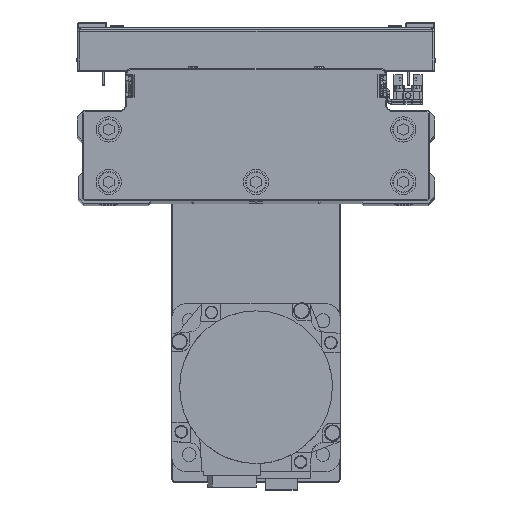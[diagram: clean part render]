
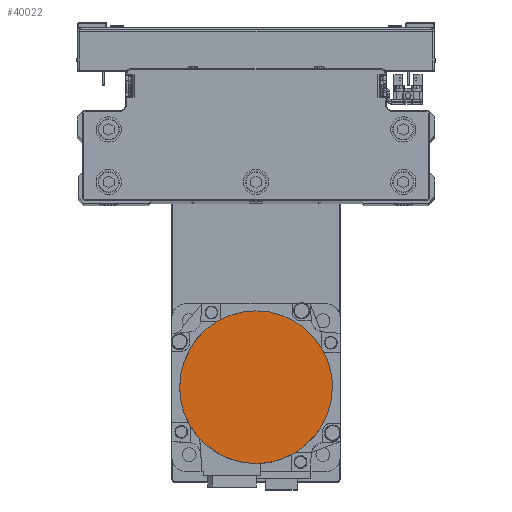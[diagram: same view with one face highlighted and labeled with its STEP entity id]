
A CAD part, top view. The second image highlights one B-rep face of the part: STEP entity #40022.
In plain terms, the highlighted planar face has unit normal (0, 0, 1) as drawn and (0, 0, -1) by its records, which use the part's own axes.
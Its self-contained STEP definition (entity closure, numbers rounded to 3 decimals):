
#258 = CARTESIAN_POINT ( 'NONE',  ( -36.3, 0., -122.2 ) ) ;
#410 = CARTESIAN_POINT ( 'NONE',  ( -18.192, 31.502, -122.2 ) ) ;
#448 = VERTEX_POINT ( 'NONE', #27372 ) ;
#518 = ORIENTED_EDGE ( 'NONE', *, *, #4486, .F. ) ;
#616 = AXIS2_PLACEMENT_3D ( 'NONE', #10681, #24418, #38156 ) ;
#1105 = DIRECTION ( 'NONE',  ( 0., 0., 1. ) ) ;
#1292 = CARTESIAN_POINT ( 'NONE',  ( -36.066, -4.752, -122.2 ) ) ;
#1511 = CARTESIAN_POINT ( 'NONE',  ( -4.752, -36.066, -122.2 ) ) ;
#3251 = ORIENTED_EDGE ( 'NONE', *, *, #34865, .F. ) ;
#3782 = CARTESIAN_POINT ( 'NONE',  ( -9.412, 35.139, -122.2 ) ) ;
#4005 = CARTESIAN_POINT ( 'NONE',  ( -36.3, 2.376, -122.2 ) ) ;
#4486 = EDGE_CURVE ( 'NONE', #448, #23498, #4887, .T. ) ;
#4689 = EDGE_CURVE ( 'NONE', #6391, #448, #8921, .T. ) ;
#4887 = B_SPLINE_CURVE_WITH_KNOTS ( 'NONE', 3,
 ( #7157, #20895, #34654, #3782, #17527, #31276, #410, #14146, #27889, #41592, #10755, #24495, #38235, #7386, #21123, #34879, #4005, #17743 ),
 .UNSPECIFIED., .F., .F.,
 ( 4, 2, 2, 2, 2, 2, 2, 2, 4 ),
 ( 0., 0.125, 0.25, 0.375, 0.5, 0.625, 0.75, 0.875, 1. ),
 .UNSPECIFIED. ) ;
#4893 = CARTESIAN_POINT ( 'NONE',  ( -16.086, -32.628, -122.2 ) ) ;
#5333 = CARTESIAN_POINT ( 'NONE',  ( 0., 0., -122.2 ) ) ;
#6391 = VERTEX_POINT ( 'NONE', #37451 ) ;
#6419 = CIRCLE ( 'NONE', #31623, 36.3 ) ;
#6878 = VERTEX_POINT ( 'NONE', #8796 ) ;
#7157 = CARTESIAN_POINT ( 'NONE',  ( 0., 36.3, -122.2 ) ) ;
#7386 = CARTESIAN_POINT ( 'NONE',  ( -34.446, 11.696, -122.2 ) ) ;
#8284 = CARTESIAN_POINT ( 'NONE',  ( -23.988, -27.348, -122.2 ) ) ;
#8796 = CARTESIAN_POINT ( 'NONE',  ( 0., -36.3, -122.2 ) ) ;
#8921 = CIRCLE ( 'NONE', #34120, 36.3 ) ;
#10681 = CARTESIAN_POINT ( 'NONE',  ( 0., 0., -122.2 ) ) ;
#10755 = CARTESIAN_POINT ( 'NONE',  ( -28.862, 22.143, -122.2 ) ) ;
#11646 = CARTESIAN_POINT ( 'NONE',  ( -31.502, -18.192, -122.2 ) ) ;
#14146 = CARTESIAN_POINT ( 'NONE',  ( -22.143, 28.862, -122.2 ) ) ;
#14830 = DIRECTION ( 'NONE',  ( -1., 0., 0. ) ) ;
#15016 = CARTESIAN_POINT ( 'NONE',  ( -35.139, -9.412, -122.2 ) ) ;
#15244 = CARTESIAN_POINT ( 'NONE',  ( -2.376, -36.3, -122.2 ) ) ;
#17527 = CARTESIAN_POINT ( 'NONE',  ( -11.696, 34.446, -122.2 ) ) ;
#17743 = CARTESIAN_POINT ( 'NONE',  ( -36.3, 0., -122.2 ) ) ;
#18408 = CARTESIAN_POINT ( 'NONE',  ( -36.3, 0., -122.2 ) ) ;
#18624 = CARTESIAN_POINT ( 'NONE',  ( -11.696, -34.446, -122.2 ) ) ;
#18668 = EDGE_CURVE ( 'NONE', #6878, #6391, #6419, .T. ) ;
#19068 = DIRECTION ( 'NONE',  ( 0., 0., 1. ) ) ;
#20768 = ORIENTED_EDGE ( 'NONE', *, *, #4689, .F. ) ;
#20895 = CARTESIAN_POINT ( 'NONE',  ( -2.376, 36.3, -122.2 ) ) ;
#21123 = CARTESIAN_POINT ( 'NONE',  ( -35.139, 9.412, -122.2 ) ) ;
#22001 = CARTESIAN_POINT ( 'NONE',  ( -22.143, -28.862, -122.2 ) ) ;
#22170 = B_SPLINE_CURVE_WITH_KNOTS ( 'NONE', 3,
 ( #18408, #32156, #1292, #15016, #28775, #42479, #11646, #25389, #39124, #8284, #22001, #35755, #4893, #18624, #32374, #1511, #15244, #29000 ),
 .UNSPECIFIED., .F., .F.,
 ( 4, 2, 2, 2, 2, 2, 2, 2, 4 ),
 ( 0., 0.125, 0.25, 0.375, 0.5, 0.625, 0.75, 0.875, 1. ),
 .UNSPECIFIED. ) ;
#23498 = VERTEX_POINT ( 'NONE', #258 ) ;
#23752 = EDGE_LOOP ( 'NONE', ( #33619, #3251, #518, #20768 ) ) ;
#24418 = DIRECTION ( 'NONE',  ( 0., 0., 1. ) ) ;
#24495 = CARTESIAN_POINT ( 'NONE',  ( -31.502, 18.192, -122.2 ) ) ;
#25389 = CARTESIAN_POINT ( 'NONE',  ( -28.862, -22.143, -122.2 ) ) ;
#27372 = CARTESIAN_POINT ( 'NONE',  ( 0., 36.3, -122.2 ) ) ;
#27815 = FACE_OUTER_BOUND ( 'NONE', #23752, .T. ) ;
#27889 = CARTESIAN_POINT ( 'NONE',  ( -23.988, 27.348, -122.2 ) ) ;
#28775 = CARTESIAN_POINT ( 'NONE',  ( -34.446, -11.696, -122.2 ) ) ;
#29000 = CARTESIAN_POINT ( 'NONE',  ( 0., -36.3, -122.2 ) ) ;
#31276 = CARTESIAN_POINT ( 'NONE',  ( -16.086, 32.628, -122.2 ) ) ;
#31623 = AXIS2_PLACEMENT_3D ( 'NONE', #31973, #1105, #14830 ) ;
#31973 = CARTESIAN_POINT ( 'NONE',  ( 0., 0., -122.2 ) ) ;
#32156 = CARTESIAN_POINT ( 'NONE',  ( -36.3, -2.376, -122.2 ) ) ;
#32374 = CARTESIAN_POINT ( 'NONE',  ( -9.412, -35.139, -122.2 ) ) ;
#32813 = DIRECTION ( 'NONE',  ( -1., 0., 0. ) ) ;
#33619 = ORIENTED_EDGE ( 'NONE', *, *, #18668, .F. ) ;
#34120 = AXIS2_PLACEMENT_3D ( 'NONE', #5333, #19068, #32813 ) ;
#34654 = CARTESIAN_POINT ( 'NONE',  ( -4.752, 36.066, -122.2 ) ) ;
#34865 = EDGE_CURVE ( 'NONE', #23498, #6878, #22170, .T. ) ;
#34879 = CARTESIAN_POINT ( 'NONE',  ( -36.066, 4.752, -122.2 ) ) ;
#35755 = CARTESIAN_POINT ( 'NONE',  ( -18.192, -31.502, -122.2 ) ) ;
#37451 = CARTESIAN_POINT ( 'NONE',  ( 36.3, 0., -122.2 ) ) ;
#38156 = DIRECTION ( 'NONE',  ( 1., 0., 0. ) ) ;
#38235 = CARTESIAN_POINT ( 'NONE',  ( -32.628, 16.086, -122.2 ) ) ;
#39124 = CARTESIAN_POINT ( 'NONE',  ( -27.348, -23.988, -122.2 ) ) ;
#40022 = ADVANCED_FACE ( 'NONE', ( #27815 ), #41517, .F. ) ;
#41517 = PLANE ( 'NONE',  #616 ) ;
#41592 = CARTESIAN_POINT ( 'NONE',  ( -27.348, 23.988, -122.2 ) ) ;
#42479 = CARTESIAN_POINT ( 'NONE',  ( -32.628, -16.086, -122.2 ) ) ;
